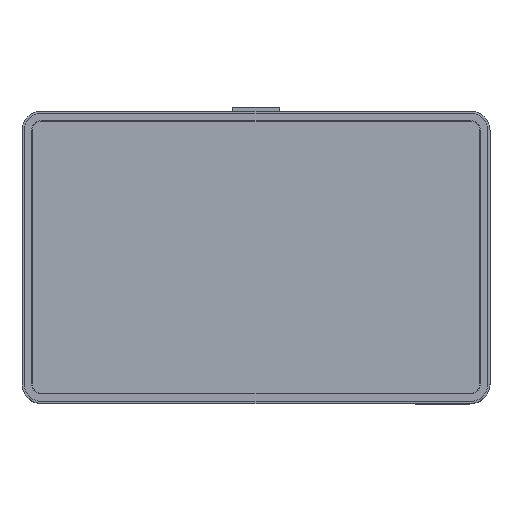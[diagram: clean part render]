
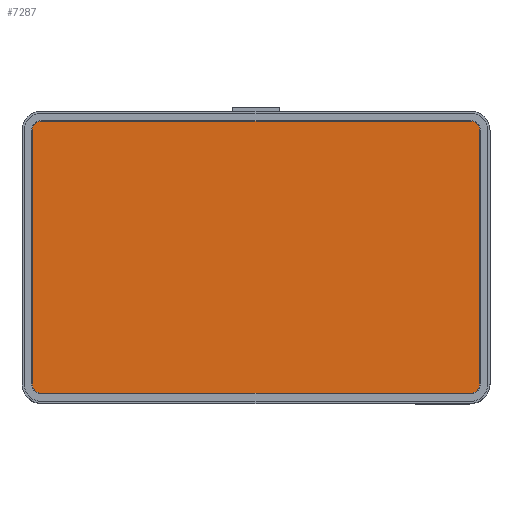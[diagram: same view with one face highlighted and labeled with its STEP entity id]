
A CAD part, top view. The second image highlights one B-rep face of the part: STEP entity #7287.
In plain terms, the highlighted planar face has unit normal (0, 0, 1).
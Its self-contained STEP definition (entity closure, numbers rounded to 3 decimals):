
#7171 = EDGE_CURVE('',#7172,#7174,#7176,.T.);
#7172 = VERTEX_POINT('',#7173);
#7173 = CARTESIAN_POINT('',(3.8,7.4,45.));
#7174 = VERTEX_POINT('',#7175);
#7175 = CARTESIAN_POINT('',(3.8,102.6,45.));
#7176 = SURFACE_CURVE('',#7177,(#7181,#7193),.PCURVE_S1.);
#7177 = LINE('',#7178,#7179);
#7178 = CARTESIAN_POINT('',(3.8,3.8,45.));
#7179 = VECTOR('',#7180,1.);
#7180 = DIRECTION('',(0.,1.,0.));
#7181 = PCURVE('',#7182,#7187);
#7182 = PLANE('',#7183);
#7183 = AXIS2_PLACEMENT_3D('',#7184,#7185,#7186);
#7184 = CARTESIAN_POINT('',(3.8,3.8,42.));
#7185 = DIRECTION('',(1.,0.,0.));
#7186 = DIRECTION('',(0.,0.,1.));
#7187 = DEFINITIONAL_REPRESENTATION('',(#7188),#7192);
#7188 = LINE('',#7189,#7190);
#7189 = CARTESIAN_POINT('',(3.,0.));
#7190 = VECTOR('',#7191,1.);
#7191 = DIRECTION('',(0.,-1.));
#7192 = ( GEOMETRIC_REPRESENTATION_CONTEXT(2) 
PARAMETRIC_REPRESENTATION_CONTEXT() REPRESENTATION_CONTEXT('2D SPACE',''
  ) );
#7193 = PCURVE('',#7194,#7199);
#7194 = PLANE('',#7195);
#7195 = AXIS2_PLACEMENT_3D('',#7196,#7197,#7198);
#7196 = CARTESIAN_POINT('',(3.8,3.8,45.));
#7197 = DIRECTION('',(0.,0.,1.));
#7198 = DIRECTION('',(1.,0.,0.));
#7199 = DEFINITIONAL_REPRESENTATION('',(#7200),#7204);
#7200 = LINE('',#7201,#7202);
#7201 = CARTESIAN_POINT('',(0.,0.));
#7202 = VECTOR('',#7203,1.);
#7203 = DIRECTION('',(0.,1.));
#7204 = ( GEOMETRIC_REPRESENTATION_CONTEXT(2) 
PARAMETRIC_REPRESENTATION_CONTEXT() REPRESENTATION_CONTEXT('2D SPACE',''
  ) );
#7222 = CYLINDRICAL_SURFACE('',#7223,3.6);
#7223 = AXIS2_PLACEMENT_3D('',#7224,#7225,#7226);
#7224 = CARTESIAN_POINT('',(7.4,7.4,42.));
#7225 = DIRECTION('',(0.,0.,1.));
#7226 = DIRECTION('',(-1.,-0.,0.));
#7276 = CYLINDRICAL_SURFACE('',#7277,3.6);
#7277 = AXIS2_PLACEMENT_3D('',#7278,#7279,#7280);
#7278 = CARTESIAN_POINT('',(7.4,102.6,42.));
#7279 = DIRECTION('',(0.,0.,1.));
#7280 = DIRECTION('',(-1.,-0.,0.));
#7287 = ADVANCED_FACE('',(#7288),#7194,.T.);
#7288 = FACE_BOUND('',#7289,.T.);
#7289 = EDGE_LOOP('',(#7290,#7291,#7315,#7343,#7376,#7404,#7433,#7461));
#7290 = ORIENTED_EDGE('',*,*,#7171,.F.);
#7291 = ORIENTED_EDGE('',*,*,#7292,.T.);
#7292 = EDGE_CURVE('',#7172,#7293,#7295,.T.);
#7293 = VERTEX_POINT('',#7294);
#7294 = CARTESIAN_POINT('',(7.4,3.8,45.));
#7295 = SURFACE_CURVE('',#7296,(#7301,#7308),.PCURVE_S1.);
#7296 = CIRCLE('',#7297,3.6);
#7297 = AXIS2_PLACEMENT_3D('',#7298,#7299,#7300);
#7298 = CARTESIAN_POINT('',(7.4,7.4,45.));
#7299 = DIRECTION('',(0.,0.,1.));
#7300 = DIRECTION('',(0.,-1.,0.));
#7301 = PCURVE('',#7194,#7302);
#7302 = DEFINITIONAL_REPRESENTATION('',(#7303),#7307);
#7303 = CIRCLE('',#7304,3.6);
#7304 = AXIS2_PLACEMENT_2D('',#7305,#7306);
#7305 = CARTESIAN_POINT('',(3.6,3.6));
#7306 = DIRECTION('',(0.,-1.));
#7307 = ( GEOMETRIC_REPRESENTATION_CONTEXT(2) 
PARAMETRIC_REPRESENTATION_CONTEXT() REPRESENTATION_CONTEXT('2D SPACE',''
  ) );
#7308 = PCURVE('',#7222,#7309);
#7309 = DEFINITIONAL_REPRESENTATION('',(#7310),#7314);
#7310 = LINE('',#7311,#7312);
#7311 = CARTESIAN_POINT('',(-4.712,3.));
#7312 = VECTOR('',#7313,1.);
#7313 = DIRECTION('',(1.,0.));
#7314 = ( GEOMETRIC_REPRESENTATION_CONTEXT(2) 
PARAMETRIC_REPRESENTATION_CONTEXT() REPRESENTATION_CONTEXT('2D SPACE',''
  ) );
#7315 = ORIENTED_EDGE('',*,*,#7316,.T.);
#7316 = EDGE_CURVE('',#7293,#7317,#7319,.T.);
#7317 = VERTEX_POINT('',#7318);
#7318 = CARTESIAN_POINT('',(168.6,3.8,45.));
#7319 = SURFACE_CURVE('',#7320,(#7324,#7331),.PCURVE_S1.);
#7320 = LINE('',#7321,#7322);
#7321 = CARTESIAN_POINT('',(3.8,3.8,45.));
#7322 = VECTOR('',#7323,1.);
#7323 = DIRECTION('',(1.,0.,0.));
#7324 = PCURVE('',#7194,#7325);
#7325 = DEFINITIONAL_REPRESENTATION('',(#7326),#7330);
#7326 = LINE('',#7327,#7328);
#7327 = CARTESIAN_POINT('',(0.,0.));
#7328 = VECTOR('',#7329,1.);
#7329 = DIRECTION('',(1.,0.));
#7330 = ( GEOMETRIC_REPRESENTATION_CONTEXT(2) 
PARAMETRIC_REPRESENTATION_CONTEXT() REPRESENTATION_CONTEXT('2D SPACE',''
  ) );
#7331 = PCURVE('',#7332,#7337);
#7332 = PLANE('',#7333);
#7333 = AXIS2_PLACEMENT_3D('',#7334,#7335,#7336);
#7334 = CARTESIAN_POINT('',(3.8,3.8,42.));
#7335 = DIRECTION('',(0.,1.,0.));
#7336 = DIRECTION('',(0.,0.,1.));
#7337 = DEFINITIONAL_REPRESENTATION('',(#7338),#7342);
#7338 = LINE('',#7339,#7340);
#7339 = CARTESIAN_POINT('',(3.,0.));
#7340 = VECTOR('',#7341,1.);
#7341 = DIRECTION('',(0.,1.));
#7342 = ( GEOMETRIC_REPRESENTATION_CONTEXT(2) 
PARAMETRIC_REPRESENTATION_CONTEXT() REPRESENTATION_CONTEXT('2D SPACE',''
  ) );
#7343 = ORIENTED_EDGE('',*,*,#7344,.F.);
#7344 = EDGE_CURVE('',#7345,#7317,#7347,.T.);
#7345 = VERTEX_POINT('',#7346);
#7346 = CARTESIAN_POINT('',(172.2,7.4,45.));
#7347 = SURFACE_CURVE('',#7348,(#7353,#7364),.PCURVE_S1.);
#7348 = CIRCLE('',#7349,3.6);
#7349 = AXIS2_PLACEMENT_3D('',#7350,#7351,#7352);
#7350 = CARTESIAN_POINT('',(168.6,7.4,45.));
#7351 = DIRECTION('',(-0.,-0.,-1.));
#7352 = DIRECTION('',(0.,-1.,0.));
#7353 = PCURVE('',#7194,#7354);
#7354 = DEFINITIONAL_REPRESENTATION('',(#7355),#7363);
#7355 = ( BOUNDED_CURVE() B_SPLINE_CURVE(2,(#7356,#7357,#7358,#7359,
#7360,#7361,#7362),.UNSPECIFIED.,.T.,.F.) B_SPLINE_CURVE_WITH_KNOTS((1,2
    ,2,2,2,1),(-2.094,0.,2.094,4.189,
6.283,8.378),.UNSPECIFIED.) CURVE() 
GEOMETRIC_REPRESENTATION_ITEM() RATIONAL_B_SPLINE_CURVE((1.,0.5,1.,0.5,
1.,0.5,1.)) REPRESENTATION_ITEM('') );
#7356 = CARTESIAN_POINT('',(164.8,0.));
#7357 = CARTESIAN_POINT('',(158.565,0.));
#7358 = CARTESIAN_POINT('',(161.682,5.4));
#7359 = CARTESIAN_POINT('',(164.8,10.8));
#7360 = CARTESIAN_POINT('',(167.918,5.4));
#7361 = CARTESIAN_POINT('',(171.035,0.));
#7362 = CARTESIAN_POINT('',(164.8,0.));
#7363 = ( GEOMETRIC_REPRESENTATION_CONTEXT(2) 
PARAMETRIC_REPRESENTATION_CONTEXT() REPRESENTATION_CONTEXT('2D SPACE',''
  ) );
#7364 = PCURVE('',#7365,#7370);
#7365 = CYLINDRICAL_SURFACE('',#7366,3.6);
#7366 = AXIS2_PLACEMENT_3D('',#7367,#7368,#7369);
#7367 = CARTESIAN_POINT('',(168.6,7.4,42.));
#7368 = DIRECTION('',(0.,0.,1.));
#7369 = DIRECTION('',(1.,0.,-0.));
#7370 = DEFINITIONAL_REPRESENTATION('',(#7371),#7375);
#7371 = LINE('',#7372,#7373);
#7372 = CARTESIAN_POINT('',(4.712,3.));
#7373 = VECTOR('',#7374,1.);
#7374 = DIRECTION('',(-1.,0.));
#7375 = ( GEOMETRIC_REPRESENTATION_CONTEXT(2) 
PARAMETRIC_REPRESENTATION_CONTEXT() REPRESENTATION_CONTEXT('2D SPACE',''
  ) );
#7376 = ORIENTED_EDGE('',*,*,#7377,.T.);
#7377 = EDGE_CURVE('',#7345,#7378,#7380,.T.);
#7378 = VERTEX_POINT('',#7379);
#7379 = CARTESIAN_POINT('',(172.2,102.6,45.));
#7380 = SURFACE_CURVE('',#7381,(#7385,#7392),.PCURVE_S1.);
#7381 = LINE('',#7382,#7383);
#7382 = CARTESIAN_POINT('',(172.2,3.8,45.));
#7383 = VECTOR('',#7384,1.);
#7384 = DIRECTION('',(0.,1.,0.));
#7385 = PCURVE('',#7194,#7386);
#7386 = DEFINITIONAL_REPRESENTATION('',(#7387),#7391);
#7387 = LINE('',#7388,#7389);
#7388 = CARTESIAN_POINT('',(168.4,0.));
#7389 = VECTOR('',#7390,1.);
#7390 = DIRECTION('',(0.,1.));
#7391 = ( GEOMETRIC_REPRESENTATION_CONTEXT(2) 
PARAMETRIC_REPRESENTATION_CONTEXT() REPRESENTATION_CONTEXT('2D SPACE',''
  ) );
#7392 = PCURVE('',#7393,#7398);
#7393 = PLANE('',#7394);
#7394 = AXIS2_PLACEMENT_3D('',#7395,#7396,#7397);
#7395 = CARTESIAN_POINT('',(172.2,3.8,42.));
#7396 = DIRECTION('',(1.,0.,0.));
#7397 = DIRECTION('',(0.,0.,1.));
#7398 = DEFINITIONAL_REPRESENTATION('',(#7399),#7403);
#7399 = LINE('',#7400,#7401);
#7400 = CARTESIAN_POINT('',(3.,0.));
#7401 = VECTOR('',#7402,1.);
#7402 = DIRECTION('',(0.,-1.));
#7403 = ( GEOMETRIC_REPRESENTATION_CONTEXT(2) 
PARAMETRIC_REPRESENTATION_CONTEXT() REPRESENTATION_CONTEXT('2D SPACE',''
  ) );
#7404 = ORIENTED_EDGE('',*,*,#7405,.T.);
#7405 = EDGE_CURVE('',#7378,#7406,#7408,.T.);
#7406 = VERTEX_POINT('',#7407);
#7407 = CARTESIAN_POINT('',(168.6,106.2,45.));
#7408 = SURFACE_CURVE('',#7409,(#7414,#7421),.PCURVE_S1.);
#7409 = CIRCLE('',#7410,3.6);
#7410 = AXIS2_PLACEMENT_3D('',#7411,#7412,#7413);
#7411 = CARTESIAN_POINT('',(168.6,102.6,45.));
#7412 = DIRECTION('',(0.,0.,1.));
#7413 = DIRECTION('',(0.,-1.,0.));
#7414 = PCURVE('',#7194,#7415);
#7415 = DEFINITIONAL_REPRESENTATION('',(#7416),#7420);
#7416 = CIRCLE('',#7417,3.6);
#7417 = AXIS2_PLACEMENT_2D('',#7418,#7419);
#7418 = CARTESIAN_POINT('',(164.8,98.8));
#7419 = DIRECTION('',(0.,-1.));
#7420 = ( GEOMETRIC_REPRESENTATION_CONTEXT(2) 
PARAMETRIC_REPRESENTATION_CONTEXT() REPRESENTATION_CONTEXT('2D SPACE',''
  ) );
#7421 = PCURVE('',#7422,#7427);
#7422 = CYLINDRICAL_SURFACE('',#7423,3.6);
#7423 = AXIS2_PLACEMENT_3D('',#7424,#7425,#7426);
#7424 = CARTESIAN_POINT('',(168.6,102.6,42.));
#7425 = DIRECTION('',(0.,0.,1.));
#7426 = DIRECTION('',(1.,0.,-0.));
#7427 = DEFINITIONAL_REPRESENTATION('',(#7428),#7432);
#7428 = LINE('',#7429,#7430);
#7429 = CARTESIAN_POINT('',(-1.571,3.));
#7430 = VECTOR('',#7431,1.);
#7431 = DIRECTION('',(1.,0.));
#7432 = ( GEOMETRIC_REPRESENTATION_CONTEXT(2) 
PARAMETRIC_REPRESENTATION_CONTEXT() REPRESENTATION_CONTEXT('2D SPACE',''
  ) );
#7433 = ORIENTED_EDGE('',*,*,#7434,.F.);
#7434 = EDGE_CURVE('',#7435,#7406,#7437,.T.);
#7435 = VERTEX_POINT('',#7436);
#7436 = CARTESIAN_POINT('',(7.4,106.2,45.));
#7437 = SURFACE_CURVE('',#7438,(#7442,#7449),.PCURVE_S1.);
#7438 = LINE('',#7439,#7440);
#7439 = CARTESIAN_POINT('',(3.8,106.2,45.));
#7440 = VECTOR('',#7441,1.);
#7441 = DIRECTION('',(1.,0.,0.));
#7442 = PCURVE('',#7194,#7443);
#7443 = DEFINITIONAL_REPRESENTATION('',(#7444),#7448);
#7444 = LINE('',#7445,#7446);
#7445 = CARTESIAN_POINT('',(0.,102.4));
#7446 = VECTOR('',#7447,1.);
#7447 = DIRECTION('',(1.,0.));
#7448 = ( GEOMETRIC_REPRESENTATION_CONTEXT(2) 
PARAMETRIC_REPRESENTATION_CONTEXT() REPRESENTATION_CONTEXT('2D SPACE',''
  ) );
#7449 = PCURVE('',#7450,#7455);
#7450 = PLANE('',#7451);
#7451 = AXIS2_PLACEMENT_3D('',#7452,#7453,#7454);
#7452 = CARTESIAN_POINT('',(3.8,106.2,42.));
#7453 = DIRECTION('',(0.,1.,0.));
#7454 = DIRECTION('',(0.,0.,1.));
#7455 = DEFINITIONAL_REPRESENTATION('',(#7456),#7460);
#7456 = LINE('',#7457,#7458);
#7457 = CARTESIAN_POINT('',(3.,0.));
#7458 = VECTOR('',#7459,1.);
#7459 = DIRECTION('',(0.,1.));
#7460 = ( GEOMETRIC_REPRESENTATION_CONTEXT(2) 
PARAMETRIC_REPRESENTATION_CONTEXT() REPRESENTATION_CONTEXT('2D SPACE',''
  ) );
#7461 = ORIENTED_EDGE('',*,*,#7462,.F.);
#7462 = EDGE_CURVE('',#7174,#7435,#7463,.T.);
#7463 = SURFACE_CURVE('',#7464,(#7469,#7480),.PCURVE_S1.);
#7464 = CIRCLE('',#7465,3.6);
#7465 = AXIS2_PLACEMENT_3D('',#7466,#7467,#7468);
#7466 = CARTESIAN_POINT('',(7.4,102.6,45.));
#7467 = DIRECTION('',(-0.,-0.,-1.));
#7468 = DIRECTION('',(0.,-1.,0.));
#7469 = PCURVE('',#7194,#7470);
#7470 = DEFINITIONAL_REPRESENTATION('',(#7471),#7479);
#7471 = ( BOUNDED_CURVE() B_SPLINE_CURVE(2,(#7472,#7473,#7474,#7475,
#7476,#7477,#7478),.UNSPECIFIED.,.T.,.F.) B_SPLINE_CURVE_WITH_KNOTS((1,2
    ,2,2,2,1),(-2.094,0.,2.094,4.189,
6.283,8.378),.UNSPECIFIED.) CURVE() 
GEOMETRIC_REPRESENTATION_ITEM() RATIONAL_B_SPLINE_CURVE((1.,0.5,1.,0.5,
1.,0.5,1.)) REPRESENTATION_ITEM('') );
#7472 = CARTESIAN_POINT('',(3.6,95.2));
#7473 = CARTESIAN_POINT('',(-2.635,95.2));
#7474 = CARTESIAN_POINT('',(0.482,100.6));
#7475 = CARTESIAN_POINT('',(3.6,106.));
#7476 = CARTESIAN_POINT('',(6.718,100.6));
#7477 = CARTESIAN_POINT('',(9.835,95.2));
#7478 = CARTESIAN_POINT('',(3.6,95.2));
#7479 = ( GEOMETRIC_REPRESENTATION_CONTEXT(2) 
PARAMETRIC_REPRESENTATION_CONTEXT() REPRESENTATION_CONTEXT('2D SPACE',''
  ) );
#7480 = PCURVE('',#7276,#7481);
#7481 = DEFINITIONAL_REPRESENTATION('',(#7482),#7486);
#7482 = LINE('',#7483,#7484);
#7483 = CARTESIAN_POINT('',(1.571,3.));
#7484 = VECTOR('',#7485,1.);
#7485 = DIRECTION('',(-1.,0.));
#7486 = ( GEOMETRIC_REPRESENTATION_CONTEXT(2) 
PARAMETRIC_REPRESENTATION_CONTEXT() REPRESENTATION_CONTEXT('2D SPACE',''
  ) );
